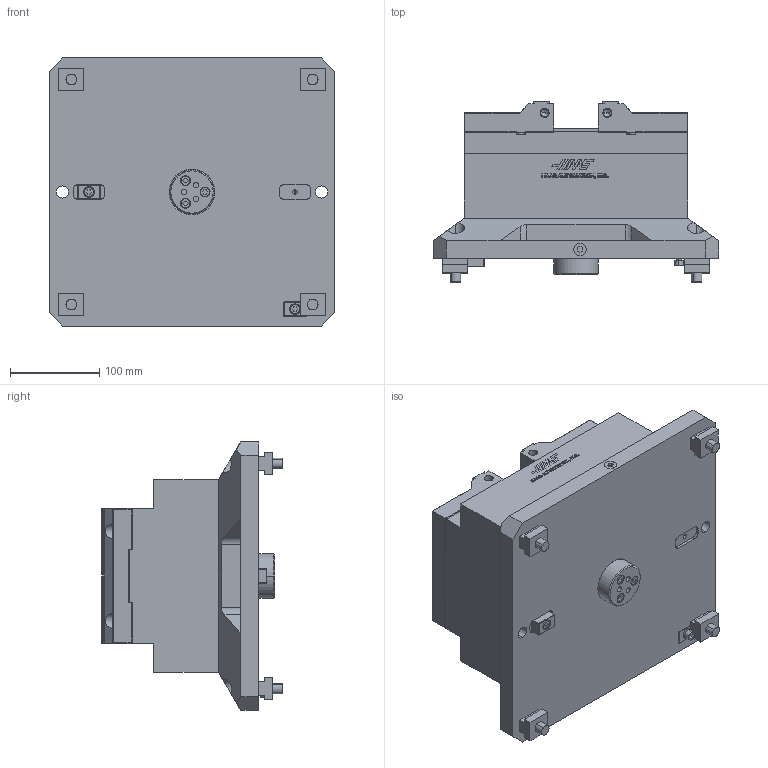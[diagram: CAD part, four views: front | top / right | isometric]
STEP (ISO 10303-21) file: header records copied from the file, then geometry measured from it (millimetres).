
FILE_DESCRIPTION (( 'STEP AP214' ), '1' );
FILE_NAME ('UMC-150mm-Pneumatic-Vise.STEP', '2021-09-13T16:40:02', ( '' ), ( '' ), 'SwSTEP 2.0', 'SolidWorks 2020', '' );
FILE_SCHEMA (( 'AUTOMOTIVE_DESIGN' ));
Length unit declared in the file: millimetre
Products named in the file (17): Pneumatics; 58-3105; Jaws-Assembly; UMC-150mm-Pneumatic-Vise; 40-16545; 10000175939; 10000172321_BOM Item; 40-1626_40-1626; 10000160860_Simplified ; 10000175940; 57-2029; 10000175921; 40-0230_40-0230; 10000173332_91290A318; 10000172736; Table-Fastners; Body
Assembly tree (36 placements, depth 3):
  UMC-150mm-Pneumatic-Vise
    Body
      10000175940
      10000175939
    Table-Fastners
      40-16545  x4
      10000172736  x4
      10000172321_BOM Item  x2
      10000173332_91290A318  x2
    Jaws-Assembly
      10000160860_Simplified   x2
      40-0230_40-0230  x8
    Pneumatics
      58-3105
      10000175921
      40-1626_40-1626  x3
      57-2029  x3
Bounding box: 320 x 201.85 x 300 mm (x, y, z)
Volume: 9153216.7 mm3; surface area: 620693.3 mm2
Topology: 32 solids, 32 shells, 1297 faces, 3229 edges, 2033 vertices
Faces by surface type: plane 678, cylinder 303, cone 160, bspline 144, torus 12
Entity records: 37344 total; most frequent: CARTESIAN_POINT 7044, ORIENTED_EDGE 4638, DIRECTION 4111, EDGE_CURVE 2319, LINE 1531, VECTOR 1531, VERTEX_POINT 1507, AXIS2_PLACEMENT_3D 1290
